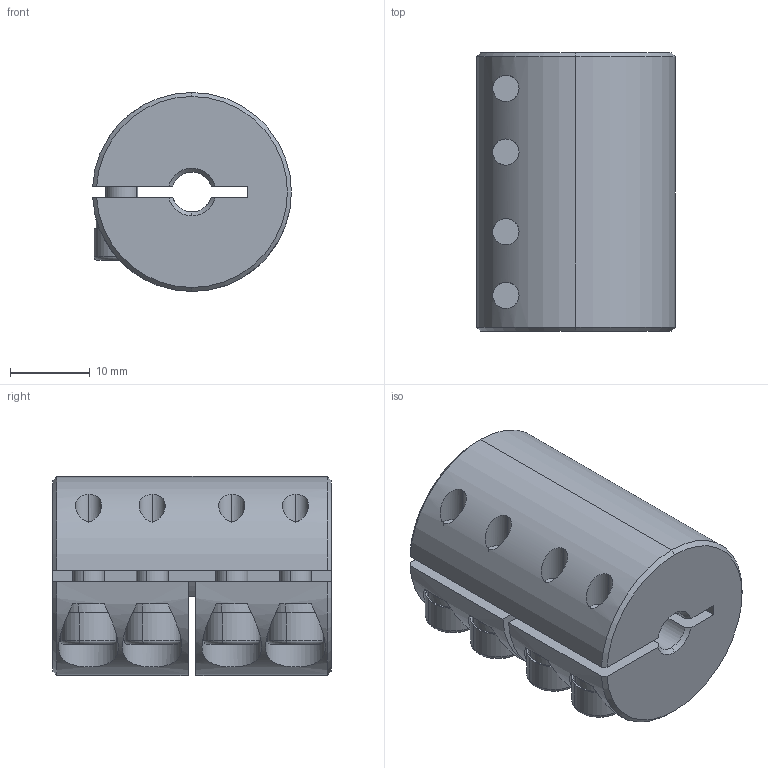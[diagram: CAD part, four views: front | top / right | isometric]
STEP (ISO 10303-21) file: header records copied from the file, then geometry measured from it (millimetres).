
FILE_DESCRIPTION (( 'STEP AP203' ), '1' );
FILE_NAME ('LL-B-D25L35-5-5.STEP', '2021-11-05T06:48:23', ( '' ), ( '' ), 'SwSTEP 2.0', 'SolidWorks 2018', '' );
FILE_SCHEMA (( 'CONFIG_CONTROL_DESIGN' ));
Length unit declared in the file: millimetre
Products named in the file (1): LL-B-D25L35-5-5
Bounding box: 24.98 x 35 x 25 mm (x, y, z)
Volume: 15264 mm3; surface area: 6854.1 mm2
Topology: 1 solids, 1 shells, 187 faces, 478 edges, 297 vertices
Faces by surface type: plane 90, cylinder 69, cone 20, torus 8
Entity records: 6142 total; most frequent: CARTESIAN_POINT 1467, DIRECTION 1011, ORIENTED_EDGE 940, EDGE_CURVE 470, AXIS2_PLACEMENT_3D 393, VERTEX_POINT 297, VECTOR 225, LINE 225
